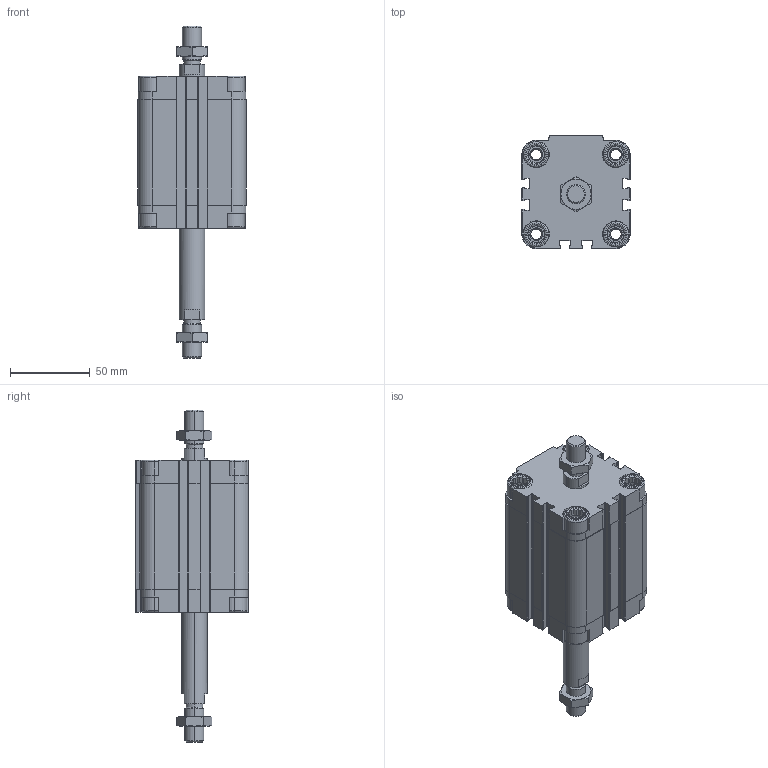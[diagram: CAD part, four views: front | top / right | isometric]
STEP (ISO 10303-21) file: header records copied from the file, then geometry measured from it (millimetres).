
FILE_DESCRIPTION (( 'STEP AP203' ), '1' );
FILE_NAME ('CDVU50-50M-P.STEP', '2020-07-21T15:19:10', ( '' ), ( '' ), 'SwSTEP 2.0', 'SolidWorks 2019', '' );
FILE_SCHEMA (( 'CONFIG_CONTROL_DESIGN' ));
Length unit declared in the file: millimetre
Products named in the file (1): CDVU50-50M-P
Bounding box: 68 x 71 x 208.5 mm (x, y, z)
Volume: 327481 mm3; surface area: 87099.6 mm2
Topology: 4 solids, 4 shells, 758 faces, 2004 edges, 1290 vertices
Faces by surface type: plane 438, cylinder 240, cone 64, torus 16
Entity records: 24259 total; most frequent: CARTESIAN_POINT 5321, ORIENTED_EDGE 4000, DIRECTION 3878, EDGE_CURVE 2000, AXIS2_PLACEMENT_3D 1335, VERTEX_POINT 1290, LINE 1208, VECTOR 1208
